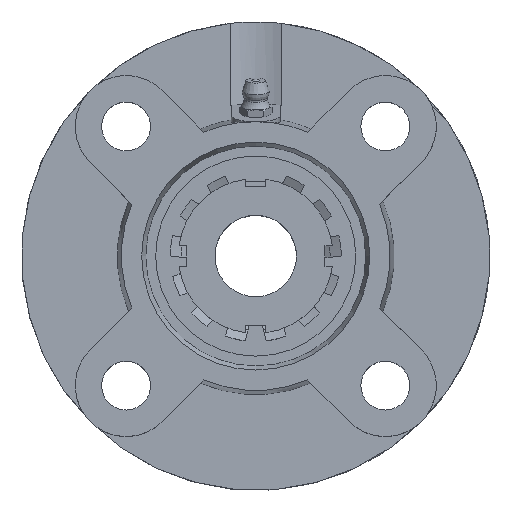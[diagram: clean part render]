
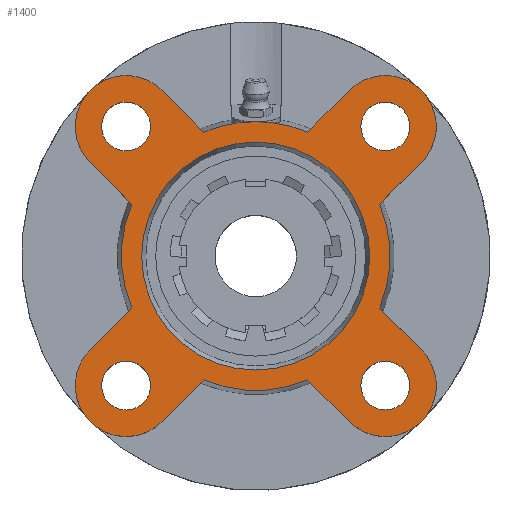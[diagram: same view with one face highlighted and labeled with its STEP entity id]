
A CAD part, top view. The second image highlights one B-rep face of the part: STEP entity #1400.
In plain terms, the highlighted planar face has unit normal (0, 0, 1).
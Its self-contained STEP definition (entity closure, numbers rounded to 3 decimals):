
#229=CARTESIAN_POINT('',(-25.82,-31.82,15.));
#230=VERTEX_POINT('',#229);
#231=CARTESIAN_POINT('',(-31.82,-31.82,15.0));
#232=DIRECTION('',(0.0,0.0,-1.0));
#233=DIRECTION('',(1.0,0.0,0.0));
#234=AXIS2_PLACEMENT_3D('',#231,#232,#233);
#235=CIRCLE('',#234,6.);
#236=EDGE_CURVE('',#230,#230,#235,.T.);
#257=CARTESIAN_POINT('',(-25.82,31.82,15.));
#258=VERTEX_POINT('',#257);
#259=CARTESIAN_POINT('',(-31.82,31.82,15.));
#260=DIRECTION('',(0.0,0.0,-1.0));
#261=DIRECTION('',(1.0,0.0,0.0));
#262=AXIS2_PLACEMENT_3D('',#259,#260,#261);
#263=CIRCLE('',#262,6.);
#264=EDGE_CURVE('',#258,#258,#263,.T.);
#285=CARTESIAN_POINT('',(37.82,31.82,15.));
#286=VERTEX_POINT('',#285);
#287=CARTESIAN_POINT('',(31.82,31.82,15.));
#288=DIRECTION('',(0.0,0.0,-1.0));
#289=DIRECTION('',(1.0,0.0,0.0));
#290=AXIS2_PLACEMENT_3D('',#287,#288,#289);
#291=CIRCLE('',#290,6.);
#292=EDGE_CURVE('',#286,#286,#291,.T.);
#313=CARTESIAN_POINT('',(37.82,-31.82,15.));
#314=VERTEX_POINT('',#313);
#315=CARTESIAN_POINT('',(31.82,-31.82,15.0));
#316=DIRECTION('',(0.0,0.0,-1.0));
#317=DIRECTION('',(1.0,0.0,0.0));
#318=AXIS2_PLACEMENT_3D('',#315,#316,#317);
#319=CIRCLE('',#318,6.);
#320=EDGE_CURVE('',#314,#314,#319,.T.);
#413=CARTESIAN_POINT('',(0.0,28.0,15.));
#414=VERTEX_POINT('',#413);
#415=CARTESIAN_POINT('',(0.0,0.,15.));
#416=DIRECTION('',(0.0,0.0,-1.0));
#417=DIRECTION('',(0.0,1.0,0.0));
#418=AXIS2_PLACEMENT_3D('',#415,#416,#417);
#419=CIRCLE('',#418,28.);
#420=EDGE_CURVE('',#414,#414,#419,.T.);
#698=CARTESIAN_POINT('',(0.,33.,15.0));
#699=VERTEX_POINT('',#698);
#856=CARTESIAN_POINT('',(-12.757,30.435,15.));
#857=VERTEX_POINT('',#856);
#871=CARTESIAN_POINT('',(0.0,0.,15.));
#872=DIRECTION('',(0.0,0.0,1.0));
#873=DIRECTION('',(0.0,-1.0,0.0));
#874=AXIS2_PLACEMENT_3D('',#871,#872,#873);
#875=CIRCLE('',#874,33.);
#876=EDGE_CURVE('',#699,#857,#875,.T.);
#886=CARTESIAN_POINT('',(-12.757,-30.435,15.));
#887=VERTEX_POINT('',#886);
#903=CARTESIAN_POINT('',(-22.981,-40.659,15.));
#904=VERTEX_POINT('',#903);
#905=CARTESIAN_POINT('',(-12.757,-30.435,15.));
#906=DIRECTION('',(-0.707,-0.707,0.));
#907=VECTOR('',#906,14.459);
#908=LINE('',#905,#907);
#909=EDGE_CURVE('',#887,#904,#908,.T.);
#933=CARTESIAN_POINT('',(-30.435,12.757,15.));
#934=VERTEX_POINT('',#933);
#950=CARTESIAN_POINT('',(-40.659,22.981,15.));
#951=VERTEX_POINT('',#950);
#952=CARTESIAN_POINT('',(-30.435,12.757,15.));
#953=DIRECTION('',(-0.707,0.707,0.));
#954=VECTOR('',#953,14.459);
#955=LINE('',#952,#954);
#956=EDGE_CURVE('',#934,#951,#955,.T.);
#980=CARTESIAN_POINT('',(30.435,-12.757,15.0));
#981=VERTEX_POINT('',#980);
#997=CARTESIAN_POINT('',(40.659,-22.981,15.));
#998=VERTEX_POINT('',#997);
#999=CARTESIAN_POINT('',(30.435,-12.757,15.0));
#1000=DIRECTION('',(0.707,-0.707,0.));
#1001=VECTOR('',#1000,14.459);
#1002=LINE('',#999,#1001);
#1003=EDGE_CURVE('',#981,#998,#1002,.T.);
#1027=CARTESIAN_POINT('',(12.757,30.435,15.));
#1028=VERTEX_POINT('',#1027);
#1042=CARTESIAN_POINT('',(22.981,40.659,15.));
#1043=VERTEX_POINT('',#1042);
#1044=CARTESIAN_POINT('',(12.757,30.435,15.));
#1045=DIRECTION('',(0.707,0.707,0.));
#1046=VECTOR('',#1045,14.459);
#1047=LINE('',#1044,#1046);
#1048=EDGE_CURVE('',#1028,#1043,#1047,.T.);
#1067=CARTESIAN_POINT('',(30.435,12.757,15.));
#1068=VERTEX_POINT('',#1067);
#1090=CARTESIAN_POINT('',(40.659,22.981,15.));
#1091=VERTEX_POINT('',#1090);
#1098=CARTESIAN_POINT('',(40.659,22.981,15.));
#1099=DIRECTION('',(-0.707,-0.707,0.));
#1100=VECTOR('',#1099,14.459);
#1101=LINE('',#1098,#1100);
#1102=EDGE_CURVE('',#1091,#1068,#1101,.T.);
#1112=CARTESIAN_POINT('',(-40.659,-22.981,15.));
#1113=VERTEX_POINT('',#1112);
#1114=CARTESIAN_POINT('',(-31.82,-31.82,15.));
#1115=DIRECTION('',(0.0,0.0,-1.0));
#1116=DIRECTION('',(-0.707,0.707,0.0));
#1117=AXIS2_PLACEMENT_3D('',#1114,#1115,#1116);
#1118=CIRCLE('',#1117,12.5);
#1119=EDGE_CURVE('',#904,#1113,#1118,.T.);
#1154=CARTESIAN_POINT('',(-30.435,-12.757,15.0));
#1155=VERTEX_POINT('',#1154);
#1176=CARTESIAN_POINT('',(-40.659,-22.981,15.));
#1177=DIRECTION('',(0.707,0.707,0.));
#1178=VECTOR('',#1177,14.459);
#1179=LINE('',#1176,#1178);
#1180=EDGE_CURVE('',#1113,#1155,#1179,.T.);
#1190=CARTESIAN_POINT('',(-22.981,40.659,15.));
#1191=VERTEX_POINT('',#1190);
#1192=CARTESIAN_POINT('',(-31.82,31.82,15.));
#1193=DIRECTION('',(0.0,0.0,-1.0));
#1194=DIRECTION('',(0.707,0.707,0.0));
#1195=AXIS2_PLACEMENT_3D('',#1192,#1193,#1194);
#1196=CIRCLE('',#1195,12.5);
#1197=EDGE_CURVE('',#951,#1191,#1196,.T.);
#1225=CARTESIAN_POINT('',(-22.981,40.659,15.));
#1226=DIRECTION('',(0.707,-0.707,0.));
#1227=VECTOR('',#1226,14.459);
#1228=LINE('',#1225,#1227);
#1229=EDGE_CURVE('',#1191,#857,#1228,.T.);
#1239=CARTESIAN_POINT('',(22.981,-40.659,15.));
#1240=VERTEX_POINT('',#1239);
#1241=CARTESIAN_POINT('',(31.82,-31.82,15.));
#1242=DIRECTION('',(0.0,0.0,-1.0));
#1243=DIRECTION('',(-0.707,-0.707,0.0));
#1244=AXIS2_PLACEMENT_3D('',#1241,#1242,#1243);
#1245=CIRCLE('',#1244,12.5);
#1246=EDGE_CURVE('',#998,#1240,#1245,.T.);
#1281=CARTESIAN_POINT('',(12.757,-30.435,15.));
#1282=VERTEX_POINT('',#1281);
#1303=CARTESIAN_POINT('',(22.981,-40.659,15.));
#1304=DIRECTION('',(-0.707,0.707,0.));
#1305=VECTOR('',#1304,14.459);
#1306=LINE('',#1303,#1305);
#1307=EDGE_CURVE('',#1240,#1282,#1306,.T.);
#1317=CARTESIAN_POINT('',(31.82,31.82,15.));
#1318=DIRECTION('',(0.0,0.0,-1.0));
#1319=DIRECTION('',(0.707,-0.707,0.0));
#1320=AXIS2_PLACEMENT_3D('',#1317,#1318,#1319);
#1321=CIRCLE('',#1320,12.5);
#1322=EDGE_CURVE('',#1043,#1091,#1321,.T.);
#1337=CARTESIAN_POINT('',(0.0,-16.5,15.0));
#1338=DIRECTION('',(0.0,0.0,1.0));
#1339=DIRECTION('',(1.0,0.0,0.0));
#1340=AXIS2_PLACEMENT_3D('',#1337,#1338,#1339);
#1341=PLANE('',#1340);
#1342=CARTESIAN_POINT('',(0.0,0.,15.));
#1343=DIRECTION('',(0.0,0.0,1.0));
#1344=DIRECTION('',(0.0,-1.0,0.0));
#1345=AXIS2_PLACEMENT_3D('',#1342,#1343,#1344);
#1346=CIRCLE('',#1345,33.);
#1347=EDGE_CURVE('',#887,#1282,#1346,.T.);
#1348=ORIENTED_EDGE('',*,*,#1347,.T.);
#1349=ORIENTED_EDGE('',*,*,#1307,.F.);
#1350=ORIENTED_EDGE('',*,*,#1246,.F.);
#1351=ORIENTED_EDGE('',*,*,#1003,.F.);
#1352=CARTESIAN_POINT('',(0.0,0.,15.));
#1353=DIRECTION('',(0.0,0.0,1.0));
#1354=DIRECTION('',(0.0,-1.0,0.0));
#1355=AXIS2_PLACEMENT_3D('',#1352,#1353,#1354);
#1356=CIRCLE('',#1355,33.);
#1357=EDGE_CURVE('',#981,#1068,#1356,.T.);
#1358=ORIENTED_EDGE('',*,*,#1357,.T.);
#1359=ORIENTED_EDGE('',*,*,#1102,.F.);
#1360=ORIENTED_EDGE('',*,*,#1322,.F.);
#1361=ORIENTED_EDGE('',*,*,#1048,.F.);
#1362=CARTESIAN_POINT('',(0.0,0.,15.));
#1363=DIRECTION('',(0.0,0.0,1.0));
#1364=DIRECTION('',(0.0,-1.0,0.0));
#1365=AXIS2_PLACEMENT_3D('',#1362,#1363,#1364);
#1366=CIRCLE('',#1365,33.);
#1367=EDGE_CURVE('',#1028,#699,#1366,.T.);
#1368=ORIENTED_EDGE('',*,*,#1367,.T.);
#1369=ORIENTED_EDGE('',*,*,#876,.T.);
#1370=ORIENTED_EDGE('',*,*,#1229,.F.);
#1371=ORIENTED_EDGE('',*,*,#1197,.F.);
#1372=ORIENTED_EDGE('',*,*,#956,.F.);
#1373=CARTESIAN_POINT('',(0.0,0.,15.));
#1374=DIRECTION('',(0.0,0.0,1.0));
#1375=DIRECTION('',(0.0,-1.0,0.0));
#1376=AXIS2_PLACEMENT_3D('',#1373,#1374,#1375);
#1377=CIRCLE('',#1376,33.);
#1378=EDGE_CURVE('',#934,#1155,#1377,.T.);
#1379=ORIENTED_EDGE('',*,*,#1378,.T.);
#1380=ORIENTED_EDGE('',*,*,#1180,.F.);
#1381=ORIENTED_EDGE('',*,*,#1119,.F.);
#1382=ORIENTED_EDGE('',*,*,#909,.F.);
#1383=EDGE_LOOP('',(#1348,#1349,#1350,#1351,#1358,#1359,#1360,#1361,#1368,#1369,#1370,#1371,#1372,#1379,#1380,#1381,#1382));
#1384=FACE_OUTER_BOUND('',#1383,.T.);
#1385=ORIENTED_EDGE('',*,*,#236,.T.);
#1386=EDGE_LOOP('',(#1385));
#1387=FACE_BOUND('',#1386,.T.);
#1388=ORIENTED_EDGE('',*,*,#264,.T.);
#1389=EDGE_LOOP('',(#1388));
#1390=FACE_BOUND('',#1389,.T.);
#1391=ORIENTED_EDGE('',*,*,#292,.T.);
#1392=EDGE_LOOP('',(#1391));
#1393=FACE_BOUND('',#1392,.T.);
#1394=ORIENTED_EDGE('',*,*,#320,.T.);
#1395=EDGE_LOOP('',(#1394));
#1396=FACE_BOUND('',#1395,.T.);
#1397=ORIENTED_EDGE('',*,*,#420,.T.);
#1398=EDGE_LOOP('',(#1397));
#1399=FACE_BOUND('',#1398,.T.);
#1400=ADVANCED_FACE('',(#1384,#1387,#1390,#1393,#1396,#1399),#1341,.T.);
